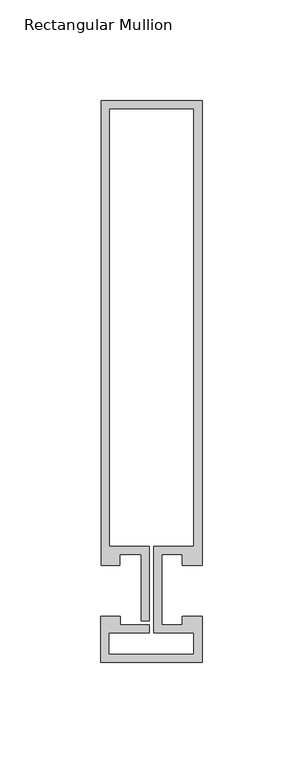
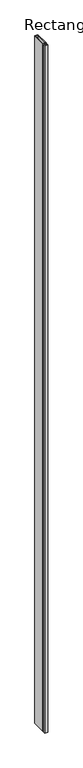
"""IFC4 building model written with IfcOpenShell, lengths in millimetres: member geometry, Rectangular Mullion : Reynaers_CW-50_Transom-Transom_230.5mm_Facecap-02C."""

from ifc_helpers import new_model, si_unit, frame, origin, place, context, project, spatial, polyline, outline, extrude, source, transform, mapped, element, save


def rectangular_mullion_5f609504(model_context):
    return source(origin(), model_context, "Body", "SweptSolid", [
        extrude(outline(polyline([(25.1995941, -12.7331291), (25.1995941, -35.5313894), (-24.994845, -35.5313894), (-24.994845, -12.7331291), (-15.2996495, -12.7331291), (-15.2996495, -16.7331291), (-0.9004059, -16.7331291), (-0.9004059, -20.7331291), (-20.994845, -20.7331291), (-20.994845, -31.5313894), (21.1995941, -31.5313894), (21.1995941, -20.7331291), (1.2995941, -20.7331291), (1.2995941, 22.1331291), (21.1995941, 22.1331291), (21.1995941, 239.2331291), (-20.8004059, 239.2331291), (-20.8004059, 22.1331291), (-0.9004059, 22.1331291), (-0.9004059, -14.7331291), (-4.9004059, -14.7331291), (-4.9004059, 18.1331291), (-15.499, 18.1331291), (-15.499, 12.7331291), (-24.8004059, 12.7331291), (-24.8004059, 243.2331291), (25.1995941, 243.2331291), (25.1995941, 12.7331291), (15.499, 12.7331291), (15.499, 18.1331291), (5.2995941, 18.1331291), (5.2995941, -16.7331291), (15.2996495, -16.7331291), (15.2996495, -12.7331291), (25.1995941, -12.7331291)])), frame((0.0, 0.0, -12000.0), z_axis=(0.0, 0.0, 1.0), x_axis=(1.0, 0.0, 0.0)), (0.0, 0.0, 1.0), 12000.0),
    ])


if __name__ == "__main__":
    model = new_model("IFC4")
    model_context = context("Model", 3, world=origin())
    ifc_project = project(units=[si_unit("LENGTHUNIT", "METRE", prefix="MILLI")], contexts=[model_context])
    site = spatial("IfcSite", under=ifc_project)
    building = spatial("IfcBuilding", under=site)
    placement = place(None, origin())
    rectangular_mullion_shape = rectangular_mullion_5f609504(model_context)
    element("IfcMember", 1, ObjectType="Rectangular Mullion : Reynaers_CW-50_Transom-Transom_230.5mm_Facecap-02C", at=placement, inside=building, context=model_context, shape_type="MappedRepresentation", body=[
        mapped(rectangular_mullion_shape, transform((0.0, 0.0, 0.0), x_axis=(1.0, 0.0, 0.0), y_axis=(0.0, 1.0, 0.0), z_axis=(0.0, 0.0, 1.0))),
    ])
    save(model, "model.ifc")
